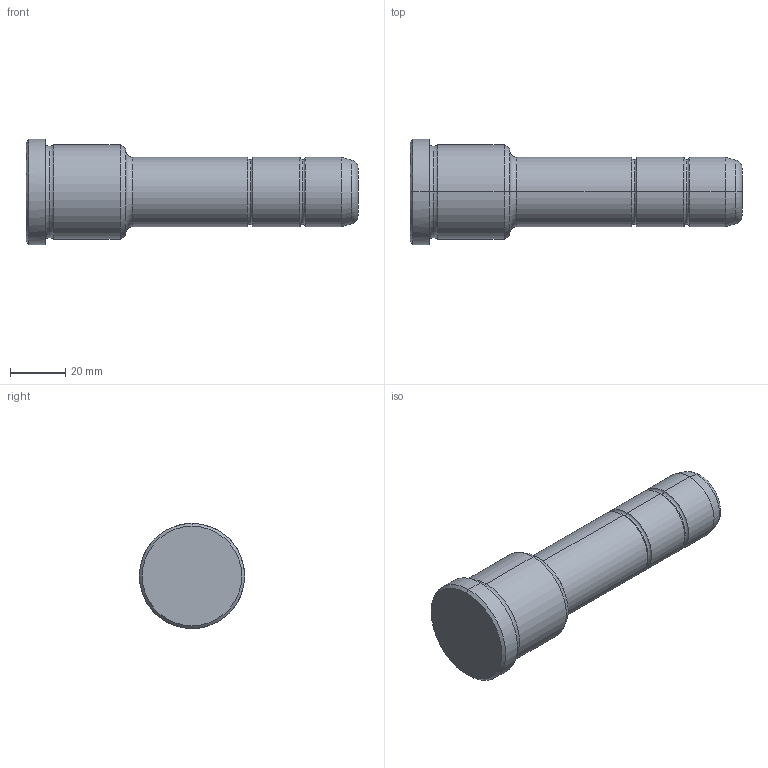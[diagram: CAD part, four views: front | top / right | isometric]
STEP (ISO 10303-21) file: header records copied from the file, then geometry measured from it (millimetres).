
FILE_DESCRIPTION(('CATIA V5 STEP Exchange'),'2;1');
FILE_NAME('C:\Users\Utente\Desktop\IO LAVORO\3D X SITO CF\X SITO\PLASTICA\351\351-25X36X120.stp','2021-08-28T09:19:07+00:00',('none'),('none'),'CATIA Version 5 Release 20 GA (IN-10)','CATIA V5 STEP AP203','none');
FILE_SCHEMA(('CONFIG_CONTROL_DESIGN'));
Length unit declared in the file: millimetre
Products named in the file (1): 351-25X36X120
Bounding box: 120 x 38 x 38 mm (x, y, z)
Volume: 74712.8 mm3; surface area: 12488.9 mm2
Topology: 1 solids, 1 shells, 36 faces, 102 edges, 70 vertices
Faces by surface type: torus 16, cylinder 10, cone 6, plane 4
Entity records: 1292 total; most frequent: CARTESIAN_POINT 321, ORIENTED_EDGE 204, DIRECTION 166, AXIS2_PLACEMENT_3D 115, EDGE_CURVE 102, CIRCLE 78, VERTEX_POINT 70, EDGE_LOOP 38
